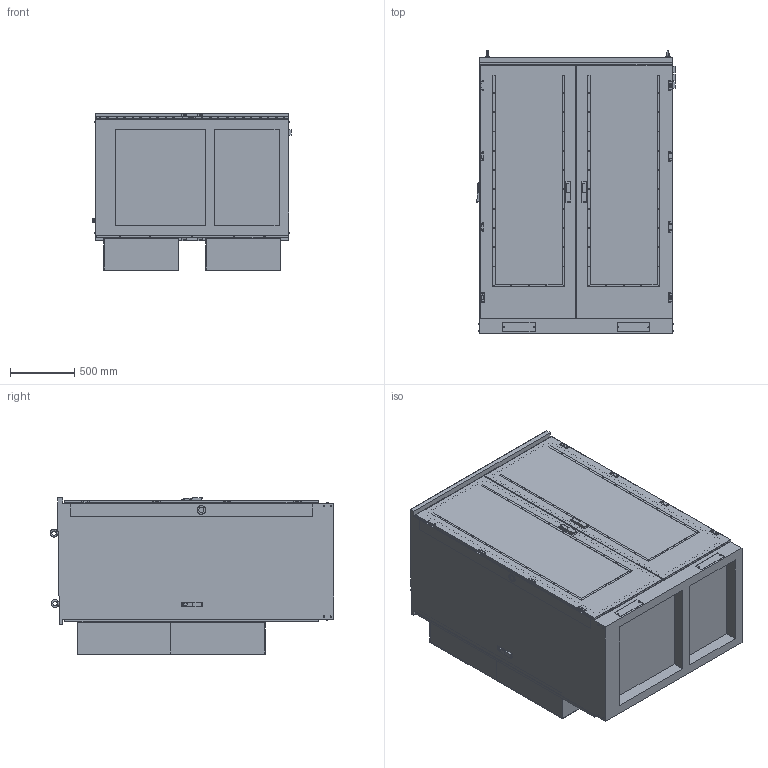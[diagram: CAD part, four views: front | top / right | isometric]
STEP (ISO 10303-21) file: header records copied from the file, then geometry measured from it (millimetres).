
FILE_DESCRIPTION((''),'2;1');
FILE_NAME('1758692909712_ASM','2025-09-24T11:18:51',('SESA617601'),('Schneider-Electric'),'CREO PARAMETRIC BY PTC INC, 2022484','CREO PARAMETRIC BY PTC INC, 2022484','');
FILE_SCHEMA(('AP242_MANAGED_MODEL_BASED_3D_ENGINEERING_MIM_LF { 1 0 10303 442 1 1 4 }'));
Length unit declared in the file: millimetre
Products named in the file (13): EMPTYNODE_1758692909759_ASM; DP-15480-CABIN; AJGLCK03; AJGFAS; AJGFAS16; POWER-CABINET-3D_ASM; DP-8123-63; CABINET-FRONT-DOOR-LEFT-3D_ASM; DP-8123-63-RIGHT; CABINET-FRONT-DOOR-RIGHT-3D_ASM; DP-8123; CABINET-EVD1S720-3D_ASM; 1758692909712_ASM
Assembly tree (35 placements, depth 3):
  1758692909712_ASM
    EMPTYNODE_1758692909759_ASM
    POWER-CABINET-3D_ASM
      DP-15480-CABIN
      AJGLCK03  x5
      AJGFAS  x16
      AJGFAS16  x4
    CABINET-FRONT-DOOR-LEFT-3D_ASM
      DP-8123-63
    CABINET-FRONT-DOOR-RIGHT-3D_ASM
      DP-8123-63-RIGHT
    CABINET-EVD1S720-3D_ASM  x2
      DP-8123
Bounding box: 1540.96 x 2205.91 x 1219.26 mm (x, y, z)
Volume: 402174843.2 mm3; surface area: 40159275 mm2
Topology: 48 solids, 64 shells, 2358 faces, 5907 edges, 3775 vertices
Faces by surface type: plane 1566, cylinder 644, bspline 72, torus 48, cone 24, extrusion 4
Entity records: 48328 total; most frequent: CARTESIAN_POINT 8908, DIRECTION 6017, ORIENTED_EDGE 5758, PRESENTATION_STYLE_ASSIGNMENT 3022, STYLED_ITEM 2908, CURVE_STYLE 2883, EDGE_CURVE 2879, AXIS2_PLACEMENT_3D 2049
